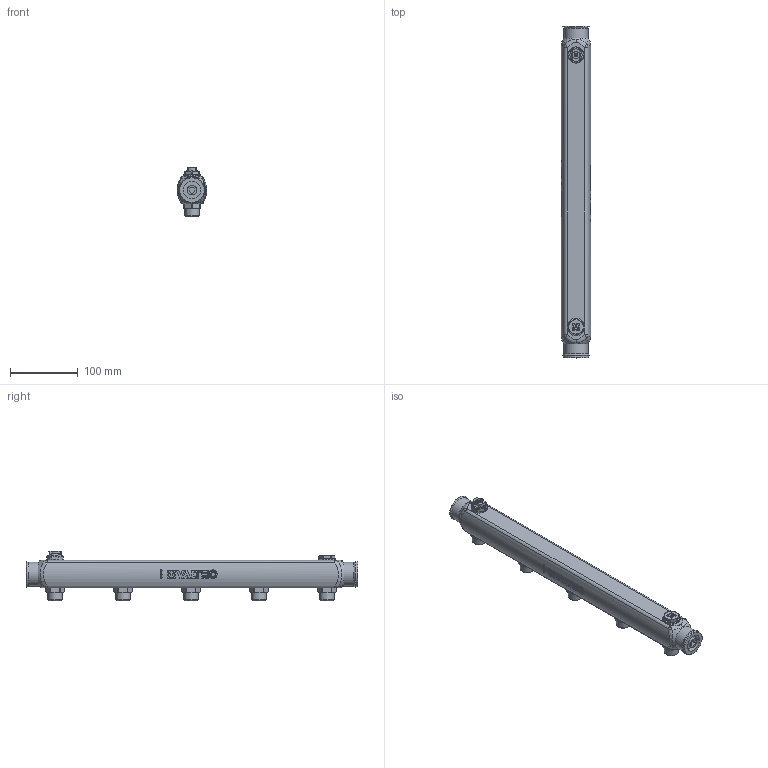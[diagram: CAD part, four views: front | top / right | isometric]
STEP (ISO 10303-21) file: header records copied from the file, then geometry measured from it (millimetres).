
FILE_DESCRIPTION(('STEP AP203'), '1');
FILE_NAME('覆.622621.025.000 捘 - VTc.510.SS.060405', '2024-08-21T11:39:16', ('Boss'), (''), 'C3D Converter', 'C3D Toolkit', '');
FILE_SCHEMA(('CONFIG_CONTROL_DESIGN'));
Length unit declared in the file: millimetre
Products named in the file (1): ВР.622621.025.000 СБ
Bounding box: 43 x 488.5 x 73 mm (x, y, z)
Volume: 155937.6 mm3; surface area: 153706 mm2
Topology: 1 solids, 4 shells, 950 faces, 2445 edges, 1578 vertices
Faces by surface type: plane 378, extrusion 230, cylinder 166, cone 115, bspline 52, torus 9
Full cylindrical faces by diameter (mm): 1 x1, 5 x1, 5.3 x1, 10.2 x1, 12 x5, 13 x1, 14 x1, 20.955 x11, 22 x8, 24 x1, 25.5 x1, 26 x1, 28 x1, 30.292 x2, 35.5 x2, 37 x1
Entity records: 56444 total; most frequent: CARTESIAN_POINT 35174, ORIENTED_EDGE 4694, DIRECTION 3560, EDGE_CURVE 2347, VERTEX_POINT 1590, VECTOR 1234, AXIS2_PLACEMENT_3D 1163, EDGE_LOOP 1124
